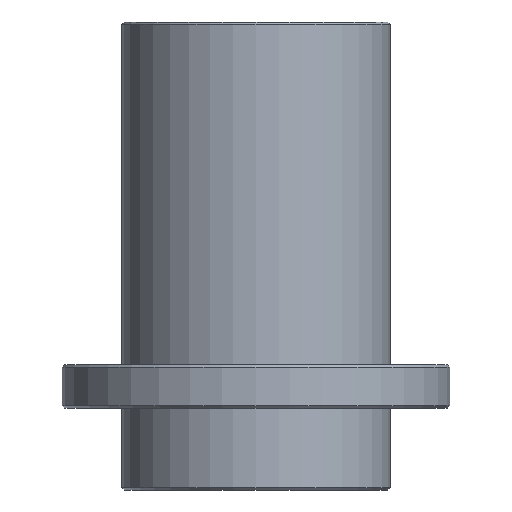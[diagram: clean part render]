
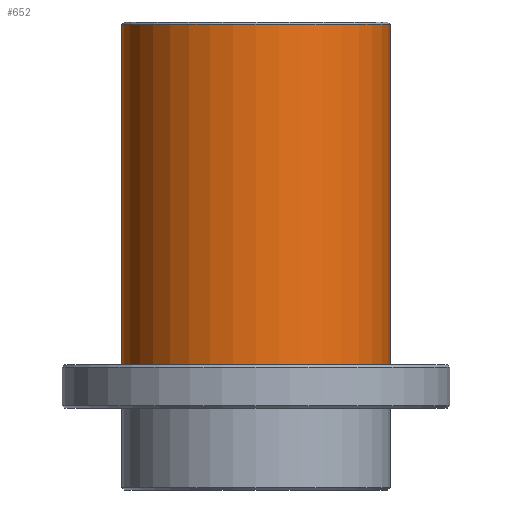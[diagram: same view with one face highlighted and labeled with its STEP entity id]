
A CAD part, front view. The second image highlights one B-rep face of the part: STEP entity #652.
In plain terms, the highlighted cylindrical face has radius 18 mm (diameter 36 mm), a partial arc.
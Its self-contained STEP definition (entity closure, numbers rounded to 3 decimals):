
#16 = CIRCLE ( 'NONE', #1355, 18. ) ;
#57 = EDGE_CURVE ( 'NONE', #1047, #1091, #1137, .T. ) ;
#162 = EDGE_LOOP ( 'NONE', ( #1236, #961, #612, #211 ) ) ;
#211 = ORIENTED_EDGE ( 'NONE', *, *, #283, .T. ) ;
#237 = LINE ( 'NONE', #1010, #1405 ) ;
#263 = CARTESIAN_POINT ( 'NONE',  ( 18., 0., 0. ) ) ;
#272 = AXIS2_PLACEMENT_3D ( 'NONE', #636, #1078, #939 ) ;
#283 = EDGE_CURVE ( 'NONE', #1091, #528, #16, .T. ) ;
#341 = DIRECTION ( 'NONE',  ( 0., 0., 1. ) ) ;
#421 = VECTOR ( 'NONE', #819, 1000. ) ;
#453 = CARTESIAN_POINT ( 'NONE',  ( 0., 0., 0. ) ) ;
#528 = VERTEX_POINT ( 'NONE', #263 ) ;
#582 = CARTESIAN_POINT ( 'NONE',  ( -18., 0., 46. ) ) ;
#603 = DIRECTION ( 'NONE',  ( 1., 0., 0. ) ) ;
#612 = ORIENTED_EDGE ( 'NONE', *, *, #57, .T. ) ;
#615 = FACE_OUTER_BOUND ( 'NONE', #162, .T. ) ;
#627 = CARTESIAN_POINT ( 'NONE',  ( 0., 0., 45.7 ) ) ;
#636 = CARTESIAN_POINT ( 'NONE',  ( 0., 0., 46. ) ) ;
#652 = ADVANCED_FACE ( 'NONE', ( #615 ), #1051, .T. ) ;
#697 = DIRECTION ( 'NONE',  ( 0., 0., -1. ) ) ;
#699 = DIRECTION ( 'NONE',  ( 0., 0., -1. ) ) ;
#782 = AXIS2_PLACEMENT_3D ( 'NONE', #627, #697, #603 ) ;
#819 = DIRECTION ( 'NONE',  ( 0., 0., -1. ) ) ;
#847 = VERTEX_POINT ( 'NONE', #888 ) ;
#859 = CARTESIAN_POINT ( 'NONE',  ( -18., 0., 0. ) ) ;
#888 = CARTESIAN_POINT ( 'NONE',  ( 18., 0., 45.7 ) ) ;
#909 = EDGE_CURVE ( 'NONE', #847, #528, #237, .T. ) ;
#918 = CIRCLE ( 'NONE', #782, 18. ) ;
#936 = CARTESIAN_POINT ( 'NONE',  ( -18., 0., 45.7 ) ) ;
#939 = DIRECTION ( 'NONE',  ( -1., 0., 0. ) ) ;
#961 = ORIENTED_EDGE ( 'NONE', *, *, #1285, .T. ) ;
#1010 = CARTESIAN_POINT ( 'NONE',  ( 18., 0., 46. ) ) ;
#1047 = VERTEX_POINT ( 'NONE', #936 ) ;
#1051 = CYLINDRICAL_SURFACE ( 'NONE', #272, 18. ) ;
#1078 = DIRECTION ( 'NONE',  ( 0., 0., -1. ) ) ;
#1091 = VERTEX_POINT ( 'NONE', #859 ) ;
#1137 = LINE ( 'NONE', #582, #421 ) ;
#1202 = DIRECTION ( 'NONE',  ( 1., 0., 0. ) ) ;
#1236 = ORIENTED_EDGE ( 'NONE', *, *, #909, .F. ) ;
#1285 = EDGE_CURVE ( 'NONE', #847, #1047, #918, .T. ) ;
#1355 = AXIS2_PLACEMENT_3D ( 'NONE', #453, #341, #1202 ) ;
#1405 = VECTOR ( 'NONE', #699, 1000. ) ;
